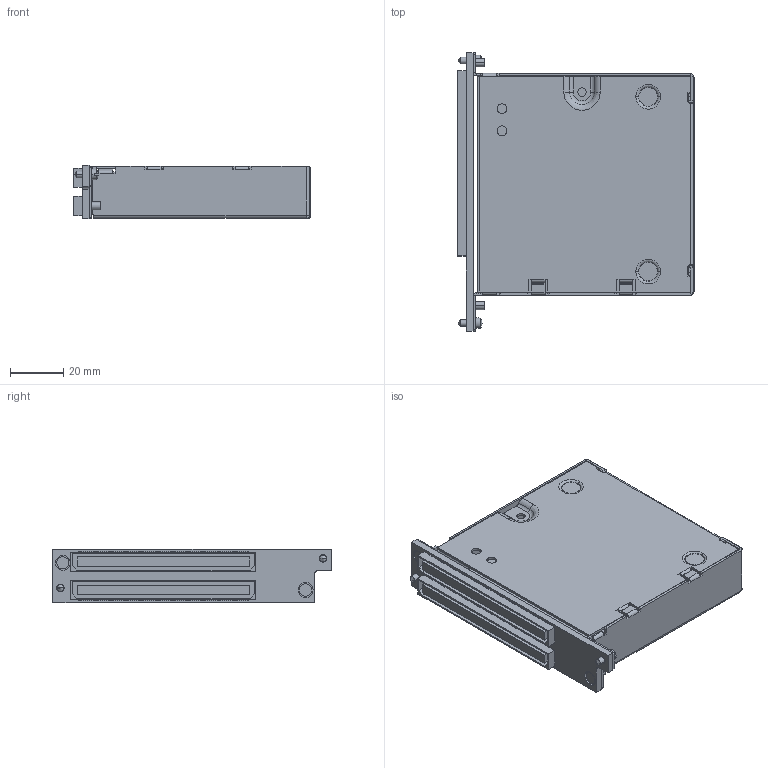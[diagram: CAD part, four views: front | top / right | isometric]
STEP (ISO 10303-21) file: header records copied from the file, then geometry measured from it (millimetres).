
FILE_DESCRIPTION((''),'2;1');
FILE_NAME('CU_TB-2645','2011-08-15T',('jjorden'),(''),'PRO/ENGINEER BY PARAMETRIC TECHNOLOGY CORPORATION, 2010230','PRO/ENGINEER BY PARAMETRIC TECHNOLOGY CORPORATION, 2010230','');
FILE_SCHEMA(('CONFIG_CONTROL_DESIGN'));
Length unit declared in the file: inch
Products named in the file (1): CU_TB-2645
Bounding box: 88.62 x 104.04 x 20.02 mm (x, y, z)
Volume: 29945.2 mm3; surface area: 45226.7 mm2
Topology: 2 solids, 2 shells, 1835 faces, 5205 edges, 3394 vertices
Faces by surface type: plane 1654, cylinder 149, torus 20, cone 8, sphere 4
Entity records: 58431 total; most frequent: CARTESIAN_POINT 10430, ORIENTED_EDGE 10402, DIRECTION 9265, EDGE_CURVE 5201, VECTOR 4807, LINE 4807, VERTEX_POINT 3394, AXIS2_PLACEMENT_3D 2229
